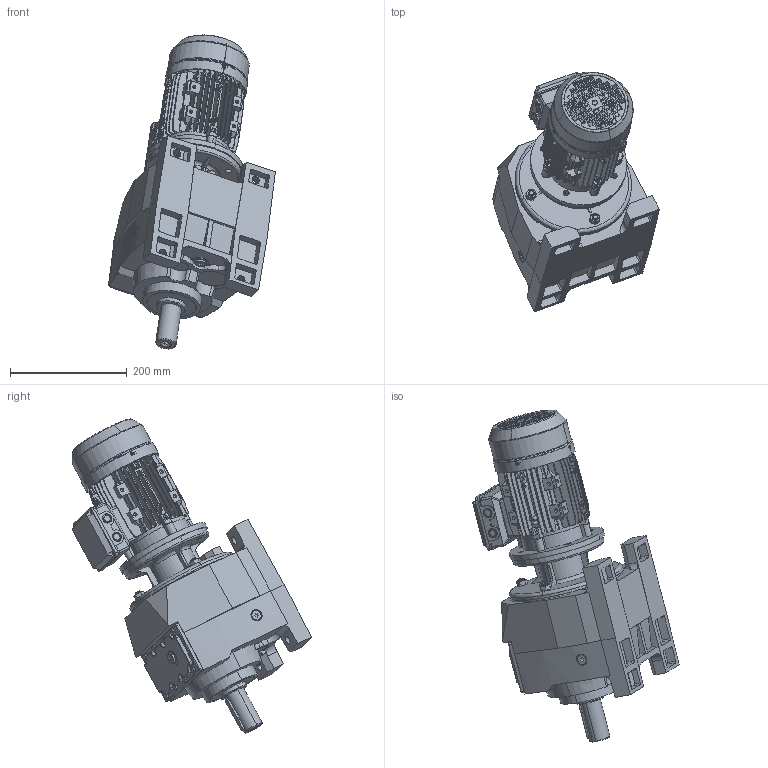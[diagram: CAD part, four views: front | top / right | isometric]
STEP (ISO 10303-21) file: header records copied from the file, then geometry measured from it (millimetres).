
FILE_DESCRIPTION (( 'STEP AP203' ), '1' );
FILE_NAME ('MV_283_0_MX71-B5.STEP', '2018-12-05T12:36:38', ( '' ), ( '' ), 'SwSTEP 2.0', 'SolidWorks 2012', '' );
FILE_SCHEMA (( 'CONFIG_CONTROL_DESIGN' ));
Products named in the file (12): Lüfterhaube_MS71; MV_283_0_MX71-B5; MX71_B5; L黤terfl黦el_MS71; B5-Flansch_MS71; Klemmkastenoberteil_MS71; Klemmenkastenunterteil_MS71; 3371B5_Varsayìlan; Gehäuse_MS71L; ML106A_Varsayìlan; B-Lagerschild_MS71; M283_Varsayìlan
Assembly tree (11 placements, depth 3):
  MV_283_0_MX71-B5
    M283_Varsayìlan
    3371B5_Varsayìlan
    ML106A_Varsayìlan
    MX71_B5
      Gehäuse_MS71L
      B-Lagerschild_MS71
      B5-Flansch_MS71
      Klemmenkastenunterteil_MS71
      Klemmkastenoberteil_MS71
      L黤terfl黦el_MS71
      Lüfterhaube_MS71
Bounding box: 285.23 x 409.88 x 537.04 mm (x, y, z)
Volume: 8565098.5 mm3; surface area: 926560.3 mm2
Topology: 10 solids, 10 shells, 2601 faces, 6878 edges, 4404 vertices
Faces by surface type: plane 1316, cylinder 696, cone 376, bspline 213
Entity records: 92908 total; most frequent: CARTESIAN_POINT 28826, ORIENTED_EDGE 13748, DIRECTION 12303, EDGE_CURVE 6874, VERTEX_POINT 4404, AXIS2_PLACEMENT_3D 4312, LINE 3679, VECTOR 3679
